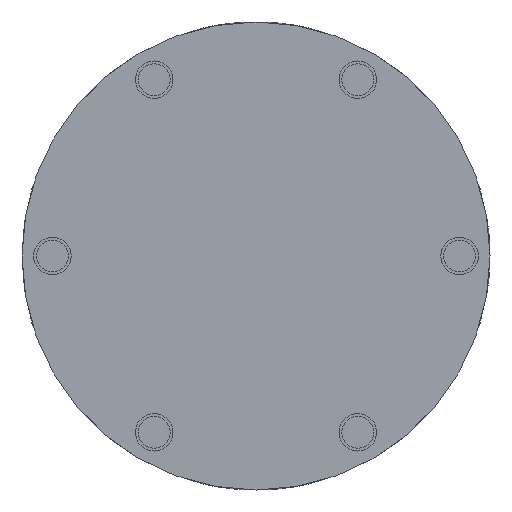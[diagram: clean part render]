
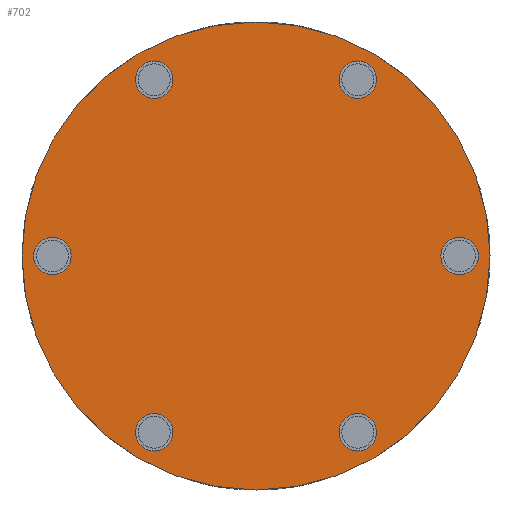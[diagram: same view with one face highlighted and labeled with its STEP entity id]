
A CAD part, front view. The second image highlights one B-rep face of the part: STEP entity #702.
In plain terms, the highlighted planar face has unit normal (0, -1, 0).
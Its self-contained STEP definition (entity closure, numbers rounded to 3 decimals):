
#221=CARTESIAN_POINT('',(0.0,0.0,50.0));
#222=VERTEX_POINT('',#221);
#229=CARTESIAN_POINT('',(0.0,0.0,-50.0));
#230=VERTEX_POINT('',#229);
#231=CARTESIAN_POINT('',(0.0,0.0,0.0));
#232=DIRECTION('',(-0.0,1.0,0.0));
#233=DIRECTION('',(0.0,0.0,-1.0));
#234=AXIS2_PLACEMENT_3D('',#231,#232,#233);
#235=CIRCLE('',#234,50.0);
#236=EDGE_CURVE('no 1098',#222,#230,#235,.T.);
#531=CARTESIAN_POINT('',(-43.5,0.0,-4.0));
#532=VERTEX_POINT('',#531);
#533=CARTESIAN_POINT('',(-40.036,-0.0,2.0));
#534=VERTEX_POINT('',#533);
#535=CARTESIAN_POINT('',(-43.5,-0.0,-0.0));
#536=DIRECTION('',(0.0,-1.0,-0.0));
#537=DIRECTION('',(0.866,0.0,0.5));
#538=AXIS2_PLACEMENT_3D('',#535,#536,#537);
#539=CIRCLE('',#538,4.0);
#540=EDGE_CURVE('no 1202',#532,#534,#539,.T.);
#541=ORIENTED_EDGE('',*,*,#540,.F.);
#542=CARTESIAN_POINT('',(-43.5,-0.0,4.0));
#543=VERTEX_POINT('',#542);
#544=CARTESIAN_POINT('',(-43.5,-0.0,-0.0));
#545=DIRECTION('',(0.0,-1.0,-0.0));
#546=DIRECTION('',(0.866,0.0,0.5));
#547=AXIS2_PLACEMENT_3D('',#544,#545,#546);
#548=CIRCLE('',#547,4.0);
#549=EDGE_CURVE('no 1208',#543,#532,#548,.T.);
#550=ORIENTED_EDGE('',*,*,#549,.F.);
#551=CARTESIAN_POINT('',(-43.5,-0.0,-0.0));
#552=DIRECTION('',(0.0,-1.0,-0.0));
#553=DIRECTION('',(0.866,0.0,0.5));
#554=AXIS2_PLACEMENT_3D('',#551,#552,#553);
#555=CIRCLE('',#554,4.0);
#556=EDGE_CURVE('no 1212',#534,#543,#555,.T.);
#557=ORIENTED_EDGE('',*,*,#556,.F.);
#558=EDGE_LOOP('',(#541,#550,#557));
#559=FACE_BOUND('',#558,.T.);
#560=CARTESIAN_POINT('',(-21.75,-0.0,33.672));
#561=VERTEX_POINT('',#560);
#562=CARTESIAN_POINT('',(-18.286,-0.0,35.672));
#563=VERTEX_POINT('',#562);
#564=CARTESIAN_POINT('',(-21.75,-0.0,37.672));
#565=DIRECTION('',(0.0,-1.0,0.0));
#566=DIRECTION('',(0.866,0.0,-0.5));
#567=AXIS2_PLACEMENT_3D('',#564,#565,#566);
#568=CIRCLE('',#567,4.0);
#569=EDGE_CURVE('no 1221',#561,#563,#568,.T.);
#570=ORIENTED_EDGE('',*,*,#569,.F.);
#571=CARTESIAN_POINT('',(-21.75,-0.0,41.672));
#572=VERTEX_POINT('',#571);
#573=CARTESIAN_POINT('',(-21.75,-0.0,37.672));
#574=DIRECTION('',(0.0,-1.0,0.0));
#575=DIRECTION('',(0.866,0.0,-0.5));
#576=AXIS2_PLACEMENT_3D('',#573,#574,#575);
#577=CIRCLE('',#576,4.0);
#578=EDGE_CURVE('no 1227',#572,#561,#577,.T.);
#579=ORIENTED_EDGE('',*,*,#578,.F.);
#580=CARTESIAN_POINT('',(-21.75,-0.0,37.672));
#581=DIRECTION('',(0.0,-1.0,0.0));
#582=DIRECTION('',(0.866,0.0,-0.5));
#583=AXIS2_PLACEMENT_3D('',#580,#581,#582);
#584=CIRCLE('',#583,4.0);
#585=EDGE_CURVE('no 1231',#563,#572,#584,.T.);
#586=ORIENTED_EDGE('',*,*,#585,.F.);
#587=EDGE_LOOP('',(#570,#579,#586));
#588=FACE_BOUND('',#587,.T.);
#589=CARTESIAN_POINT('',(21.75,0.0,41.672));
#590=VERTEX_POINT('',#589);
#591=CARTESIAN_POINT('',(21.75,0.0,33.672));
#592=VERTEX_POINT('',#591);
#593=CARTESIAN_POINT('',(21.75,0.0,37.672));
#594=DIRECTION('',(0.0,-1.0,0.0));
#595=DIRECTION('',(0.0,0.0,-1.0));
#596=AXIS2_PLACEMENT_3D('',#593,#594,#595);
#597=CIRCLE('',#596,4.0);
#598=EDGE_CURVE('no 1240',#590,#592,#597,.T.);
#599=ORIENTED_EDGE('',*,*,#598,.F.);
#600=CARTESIAN_POINT('',(21.75,0.0,37.672));
#601=DIRECTION('',(0.0,-1.0,0.0));
#602=DIRECTION('',(0.0,0.0,-1.0));
#603=AXIS2_PLACEMENT_3D('',#600,#601,#602);
#604=CIRCLE('',#603,4.0);
#605=EDGE_CURVE('no 1244',#592,#590,#604,.T.);
#606=ORIENTED_EDGE('',*,*,#605,.F.);
#607=EDGE_LOOP('',(#599,#606));
#608=FACE_BOUND('',#607,.T.);
#609=CARTESIAN_POINT('',(43.5,0.0,4.0));
#610=VERTEX_POINT('',#609);
#611=CARTESIAN_POINT('',(40.036,0.0,-2.0));
#612=VERTEX_POINT('',#611);
#613=CARTESIAN_POINT('',(43.5,0.0,0.0));
#614=DIRECTION('',(0.0,-1.0,-0.0));
#615=DIRECTION('',(-0.866,-0.0,-0.5));
#616=AXIS2_PLACEMENT_3D('',#613,#614,#615);
#617=CIRCLE('',#616,4.0);
#618=EDGE_CURVE('no 1253',#610,#612,#617,.T.);
#619=ORIENTED_EDGE('',*,*,#618,.F.);
#620=CARTESIAN_POINT('',(43.5,0.0,-4.0));
#621=VERTEX_POINT('',#620);
#622=CARTESIAN_POINT('',(43.5,0.0,0.0));
#623=DIRECTION('',(0.0,-1.0,-0.0));
#624=DIRECTION('',(-0.866,-0.0,-0.5));
#625=AXIS2_PLACEMENT_3D('',#622,#623,#624);
#626=CIRCLE('',#625,4.0);
#627=EDGE_CURVE('no 1259',#621,#610,#626,.T.);
#628=ORIENTED_EDGE('',*,*,#627,.F.);
#629=CARTESIAN_POINT('',(43.5,0.0,0.0));
#630=DIRECTION('',(0.0,-1.0,-0.0));
#631=DIRECTION('',(-0.866,-0.0,-0.5));
#632=AXIS2_PLACEMENT_3D('',#629,#630,#631);
#633=CIRCLE('',#632,4.0);
#634=EDGE_CURVE('no 1263',#612,#621,#633,.T.);
#635=ORIENTED_EDGE('',*,*,#634,.F.);
#636=EDGE_LOOP('',(#619,#628,#635));
#637=FACE_BOUND('',#636,.T.);
#638=CARTESIAN_POINT('',(21.75,0.0,-33.672));
#639=VERTEX_POINT('',#638);
#640=CARTESIAN_POINT('',(18.286,0.0,-35.672));
#641=VERTEX_POINT('',#640);
#642=CARTESIAN_POINT('',(21.75,0.0,-37.672));
#643=DIRECTION('',(0.0,-1.0,0.0));
#644=DIRECTION('',(-0.866,-0.0,0.5));
#645=AXIS2_PLACEMENT_3D('',#642,#643,#644);
#646=CIRCLE('',#645,4.0);
#647=EDGE_CURVE('no 1272',#639,#641,#646,.T.);
#648=ORIENTED_EDGE('',*,*,#647,.F.);
#649=CARTESIAN_POINT('',(21.75,0.0,-41.672));
#650=VERTEX_POINT('',#649);
#651=CARTESIAN_POINT('',(21.75,0.0,-37.672));
#652=DIRECTION('',(0.0,-1.0,0.0));
#653=DIRECTION('',(-0.866,-0.0,0.5));
#654=AXIS2_PLACEMENT_3D('',#651,#652,#653);
#655=CIRCLE('',#654,4.0);
#656=EDGE_CURVE('no 1278',#650,#639,#655,.T.);
#657=ORIENTED_EDGE('',*,*,#656,.F.);
#658=CARTESIAN_POINT('',(21.75,0.0,-37.672));
#659=DIRECTION('',(0.0,-1.0,0.0));
#660=DIRECTION('',(-0.866,-0.0,0.5));
#661=AXIS2_PLACEMENT_3D('',#658,#659,#660);
#662=CIRCLE('',#661,4.0);
#663=EDGE_CURVE('no 1282',#641,#650,#662,.T.);
#664=ORIENTED_EDGE('',*,*,#663,.F.);
#665=EDGE_LOOP('',(#648,#657,#664));
#666=FACE_BOUND('',#665,.T.);
#667=CARTESIAN_POINT('',(-21.75,0.0,-41.672));
#668=VERTEX_POINT('',#667);
#669=CARTESIAN_POINT('',(-21.75,-0.0,-33.672));
#670=VERTEX_POINT('',#669);
#671=CARTESIAN_POINT('',(-21.75,-0.0,-37.672));
#672=DIRECTION('',(0.0,-1.0,0.0));
#673=DIRECTION('',(0.0,0.0,1.0));
#674=AXIS2_PLACEMENT_3D('',#671,#672,#673);
#675=CIRCLE('',#674,4.0);
#676=EDGE_CURVE('no 1291',#668,#670,#675,.T.);
#677=ORIENTED_EDGE('',*,*,#676,.F.);
#678=CARTESIAN_POINT('',(-21.75,-0.0,-37.672));
#679=DIRECTION('',(0.0,-1.0,0.0));
#680=DIRECTION('',(0.0,0.0,1.0));
#681=AXIS2_PLACEMENT_3D('',#678,#679,#680);
#682=CIRCLE('',#681,4.0);
#683=EDGE_CURVE('no 1295',#670,#668,#682,.T.);
#684=ORIENTED_EDGE('',*,*,#683,.F.);
#685=EDGE_LOOP('',(#677,#684));
#686=FACE_BOUND('',#685,.T.);
#687=ORIENTED_EDGE('',*,*,#236,.F.);
#688=CARTESIAN_POINT('',(0.0,0.0,0.0));
#689=DIRECTION('',(-0.0,1.0,0.0));
#690=DIRECTION('',(0.0,0.0,-1.0));
#691=AXIS2_PLACEMENT_3D('',#688,#689,#690);
#692=CIRCLE('',#691,50.0);
#693=EDGE_CURVE('no 1302',#230,#222,#692,.T.);
#694=ORIENTED_EDGE('',*,*,#693,.F.);
#695=EDGE_LOOP('',(#687,#694));
#696=FACE_OUTER_BOUND('',#695,.T.);
#697=CARTESIAN_POINT('',(0.0,0.0,0.0));
#698=DIRECTION('',(-0.0,1.0,0.0));
#699=DIRECTION('',(0.0,0.0,-1.0));
#700=AXIS2_PLACEMENT_3D('',#697,#698,#699);
#701=PLANE('',#700);
#702=ADVANCED_FACE('no 1193',(#559,#588,#608,#637,#666,#686,#696),#701,.F.);
